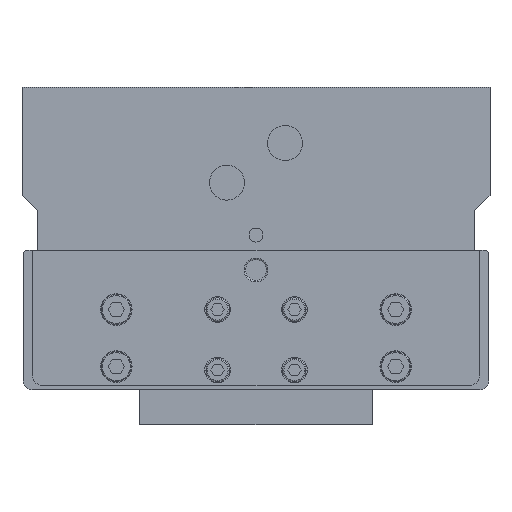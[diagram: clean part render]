
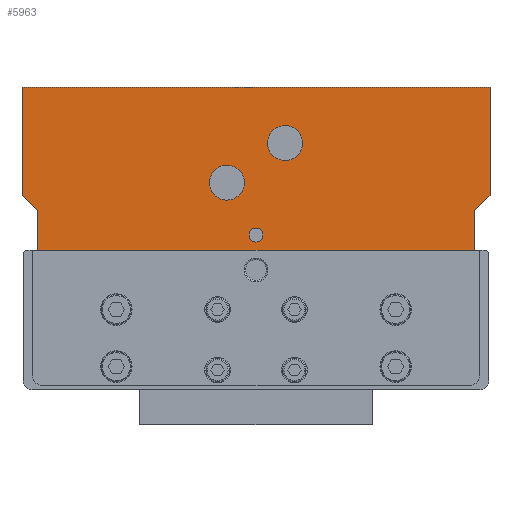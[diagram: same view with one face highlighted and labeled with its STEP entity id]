
A CAD part, left-side view. The second image highlights one B-rep face of the part: STEP entity #5963.
In plain terms, the highlighted planar face has unit normal (-1, 0, 0).
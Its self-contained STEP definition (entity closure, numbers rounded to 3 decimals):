
#1088 = VERTEX_POINT ( 'NONE', #3690 ) ;
#1090 = EDGE_CURVE ( 'NONE', #1088, #1091, #3689, .T. ) ;
#1091 = VERTEX_POINT ( 'NONE', #3684 ) ;
#3684 = CARTESIAN_POINT ( 'NONE',  ( 0., 100.5, 14.5 ) ) ;
#3685 = DIRECTION ( 'NONE',  ( 0., 0., 1. ) ) ;
#3686 = DIRECTION ( 'NONE',  ( -1., 0., 0. ) ) ;
#3687 = CARTESIAN_POINT ( 'NONE',  ( 0., 100.5, 11.5 ) ) ;
#3688 = AXIS2_PLACEMENT_3D ( 'NONE', #3687, #3686, #3685 ) ;
#3689 = CIRCLE ( 'NONE', #3688, 3. ) ;
#3690 = CARTESIAN_POINT ( 'NONE',  ( 0., 100.5, 8.5 ) ) ;
#4846 = CARTESIAN_POINT ( 'NONE',  ( 0., 88., 58.5 ) ) ;
#4847 = DIRECTION ( 'NONE',  ( 0., 0., 1. ) ) ;
#4848 = DIRECTION ( 'NONE',  ( -1., 0., 0. ) ) ;
#4849 = CARTESIAN_POINT ( 'NONE',  ( 0., 88., 51. ) ) ;
#4850 = AXIS2_PLACEMENT_3D ( 'NONE', #4849, #4848, #4847 ) ;
#4851 = CIRCLE ( 'NONE', #4850, 7.5 ) ;
#4852 = CARTESIAN_POINT ( 'NONE',  ( 0., 88., 43.5 ) ) ;
#4871 = CARTESIAN_POINT ( 'NONE',  ( 0., 113., 41.5 ) ) ;
#4872 = DIRECTION ( 'NONE',  ( 0., 0., 1. ) ) ;
#4873 = DIRECTION ( 'NONE',  ( -1., 0., 0. ) ) ;
#4874 = CARTESIAN_POINT ( 'NONE',  ( 0., 113., 34. ) ) ;
#4875 = AXIS2_PLACEMENT_3D ( 'NONE', #4874, #4873, #4872 ) ;
#4876 = CIRCLE ( 'NONE', #4875, 7.5 ) ;
#4877 = CARTESIAN_POINT ( 'NONE',  ( 0., 113., 26.5 ) ) ;
#5044 = VERTEX_POINT ( 'NONE', #4852 ) ;
#5047 = EDGE_CURVE ( 'NONE', #5044, #5048, #4851, .T. ) ;
#5048 = VERTEX_POINT ( 'NONE', #4846 ) ;
#5072 = VERTEX_POINT ( 'NONE', #4877 ) ;
#5074 = EDGE_CURVE ( 'NONE', #5072, #5076, #4876, .T. ) ;
#5076 = VERTEX_POINT ( 'NONE', #4871 ) ;
#5904 = EDGE_CURVE ( 'NONE', #5906, #6049, #6789, .T. ) ;
#5906 = VERTEX_POINT ( 'NONE', #6784 ) ;
#5907 = ORIENTED_EDGE ( 'NONE', *, *, #5908, .F. ) ;
#5908 = EDGE_CURVE ( 'NONE', #5909, #5906, #6779, .T. ) ;
#5909 = VERTEX_POINT ( 'NONE', #6772 ) ;
#5911 = ORIENTED_EDGE ( 'NONE', *, *, #5913, .T. ) ;
#5913 = EDGE_CURVE ( 'NONE', #5909, #5916, #6765, .T. ) ;
#5916 = VERTEX_POINT ( 'NONE', #6758 ) ;
#5918 = ORIENTED_EDGE ( 'NONE', *, *, #5919, .F. ) ;
#5919 = EDGE_CURVE ( 'NONE', #5920, #5916, #6752, .T. ) ;
#5920 = VERTEX_POINT ( 'NONE', #6887 ) ;
#5921 = ORIENTED_EDGE ( 'NONE', *, *, #6022, .F. ) ;
#5923 = ORIENTED_EDGE ( 'NONE', *, *, #1090, .F. ) ;
#5925 = ORIENTED_EDGE ( 'NONE', *, *, #5927, .F. ) ;
#5927 = EDGE_CURVE ( 'NONE', #5076, #5072, #6880, .T. ) ;
#5929 = ORIENTED_EDGE ( 'NONE', *, *, #5074, .F. ) ;
#5933 = EDGE_LOOP ( 'NONE', ( #5934, #5936 ) ) ;
#5934 = ORIENTED_EDGE ( 'NONE', *, *, #5935, .F. ) ;
#5935 = EDGE_CURVE ( 'NONE', #5048, #5044, #6868, .T. ) ;
#5936 = ORIENTED_EDGE ( 'NONE', *, *, #5047, .F. ) ;
#5937 = EDGE_LOOP ( 'NONE', ( #5939, #5947, #6051, #5907, #5911, #5918, #5921, #6026 ) ) ;
#5939 = ORIENTED_EDGE ( 'NONE', *, *, #5941, .F. ) ;
#5941 = EDGE_CURVE ( 'NONE', #5943, #5946, #6858, .T. ) ;
#5943 = VERTEX_POINT ( 'NONE', #6851 ) ;
#5946 = VERTEX_POINT ( 'NONE', #6848 ) ;
#5947 = ORIENTED_EDGE ( 'NONE', *, *, #6047, .F. ) ;
#5963 = ADVANCED_FACE ( 'NONE', ( #6957, #6955, #6954, #6952 ), #6948, .F. ) ;
#5966 = EDGE_LOOP ( 'NONE', ( #5968, #5923 ) ) ;
#5968 = ORIENTED_EDGE ( 'NONE', *, *, #5970, .F. ) ;
#5970 = EDGE_CURVE ( 'NONE', #1091, #1088, #6936, .T. ) ;
#5971 = EDGE_LOOP ( 'NONE', ( #5925, #5929 ) ) ;
#6022 = EDGE_CURVE ( 'NONE', #6024, #5920, #7106, .T. ) ;
#6024 = VERTEX_POINT ( 'NONE', #7099 ) ;
#6026 = ORIENTED_EDGE ( 'NONE', *, *, #6029, .T. ) ;
#6029 = EDGE_CURVE ( 'NONE', #6024, #5946, #7095, .T. ) ;
#6047 = EDGE_CURVE ( 'NONE', #6049, #5943, #7050, .T. ) ;
#6049 = VERTEX_POINT ( 'NONE', #7044 ) ;
#6051 = ORIENTED_EDGE ( 'NONE', *, *, #5904, .F. ) ;
#6747 = DIRECTION ( 'NONE',  ( 0., 0.707, 0.707 ) ) ;
#6748 = VECTOR ( 'NONE', #6747, 1000. ) ;
#6750 = CARTESIAN_POINT ( 'NONE',  ( 0., 201., 28.5 ) ) ;
#6752 = LINE ( 'NONE', #6750, #6748 ) ;
#6758 = CARTESIAN_POINT ( 'NONE',  ( 0., 201., 28.5 ) ) ;
#6760 = DIRECTION ( 'NONE',  ( 0., 0., -1. ) ) ;
#6762 = VECTOR ( 'NONE', #6760, 1000. ) ;
#6763 = CARTESIAN_POINT ( 'NONE',  ( 0., 201., 75. ) ) ;
#6765 = LINE ( 'NONE', #6763, #6762 ) ;
#6772 = CARTESIAN_POINT ( 'NONE',  ( 0., 201., 75. ) ) ;
#6774 = DIRECTION ( 'NONE',  ( 0., -1., 0. ) ) ;
#6776 = VECTOR ( 'NONE', #6774, 1000. ) ;
#6778 = CARTESIAN_POINT ( 'NONE',  ( 0., 0., 75. ) ) ;
#6779 = LINE ( 'NONE', #6778, #6776 ) ;
#6784 = CARTESIAN_POINT ( 'NONE',  ( 0., 0., 75. ) ) ;
#6785 = DIRECTION ( 'NONE',  ( 0., 0., -1. ) ) ;
#6787 = VECTOR ( 'NONE', #6785, 1000. ) ;
#6788 = CARTESIAN_POINT ( 'NONE',  ( 0., 0., 75. ) ) ;
#6789 = LINE ( 'NONE', #6788, #6787 ) ;
#6848 = CARTESIAN_POINT ( 'NONE',  ( 0., 6.5, 0. ) ) ;
#6851 = CARTESIAN_POINT ( 'NONE',  ( 0., 6.5, 22. ) ) ;
#6853 = DIRECTION ( 'NONE',  ( 0., 0., -1. ) ) ;
#6855 = VECTOR ( 'NONE', #6853, 1000. ) ;
#6856 = CARTESIAN_POINT ( 'NONE',  ( 0., 6.5, 0. ) ) ;
#6858 = LINE ( 'NONE', #6856, #6855 ) ;
#6862 = DIRECTION ( 'NONE',  ( 0., 0., 1. ) ) ;
#6863 = DIRECTION ( 'NONE',  ( -1., 0., 0. ) ) ;
#6865 = CARTESIAN_POINT ( 'NONE',  ( 0., 88., 51. ) ) ;
#6866 = AXIS2_PLACEMENT_3D ( 'NONE', #6865, #6863, #6862 ) ;
#6868 = CIRCLE ( 'NONE', #6866, 7.5 ) ;
#6874 = DIRECTION ( 'NONE',  ( 0., 0., 1. ) ) ;
#6875 = DIRECTION ( 'NONE',  ( -1., 0., 0. ) ) ;
#6877 = CARTESIAN_POINT ( 'NONE',  ( 0., 113., 34. ) ) ;
#6879 = AXIS2_PLACEMENT_3D ( 'NONE', #6877, #6875, #6874 ) ;
#6880 = CIRCLE ( 'NONE', #6879, 7.5 ) ;
#6887 = CARTESIAN_POINT ( 'NONE',  ( 0., 194.5, 22. ) ) ;
#6929 = DIRECTION ( 'NONE',  ( 0., 0., 1. ) ) ;
#6931 = DIRECTION ( 'NONE',  ( -1., 0., 0. ) ) ;
#6933 = CARTESIAN_POINT ( 'NONE',  ( 0., 100.5, 11.5 ) ) ;
#6934 = AXIS2_PLACEMENT_3D ( 'NONE', #6933, #6931, #6929 ) ;
#6936 = CIRCLE ( 'NONE', #6934, 3. ) ;
#6942 = DIRECTION ( 'NONE',  ( 0., 0., -1. ) ) ;
#6944 = DIRECTION ( 'NONE',  ( 1., 0., 0. ) ) ;
#6945 = CARTESIAN_POINT ( 'NONE',  ( 0., 0., 75. ) ) ;
#6947 = AXIS2_PLACEMENT_3D ( 'NONE', #6945, #6944, #6942 ) ;
#6948 = PLANE ( 'NONE',  #6947 ) ;
#6952 = FACE_OUTER_BOUND ( 'NONE', #5937, .T. ) ;
#6954 = FACE_BOUND ( 'NONE', #5933, .T. ) ;
#6955 = FACE_BOUND ( 'NONE', #5971, .T. ) ;
#6957 = FACE_BOUND ( 'NONE', #5966, .T. ) ;
#7044 = CARTESIAN_POINT ( 'NONE',  ( 0., 0., 28.5 ) ) ;
#7047 = DIRECTION ( 'NONE',  ( 0., 0.707, -0.707 ) ) ;
#7048 = VECTOR ( 'NONE', #7047, 1000. ) ;
#7049 = CARTESIAN_POINT ( 'NONE',  ( 0., 6.5, 22. ) ) ;
#7050 = LINE ( 'NONE', #7049, #7048 ) ;
#7090 = DIRECTION ( 'NONE',  ( 0., -1., 0. ) ) ;
#7092 = VECTOR ( 'NONE', #7090, 1000. ) ;
#7094 = CARTESIAN_POINT ( 'NONE',  ( 0., 0., 0. ) ) ;
#7095 = LINE ( 'NONE', #7094, #7092 ) ;
#7099 = CARTESIAN_POINT ( 'NONE',  ( 0., 194.5, 0. ) ) ;
#7101 = DIRECTION ( 'NONE',  ( 0., 0., 1. ) ) ;
#7103 = VECTOR ( 'NONE', #7101, 1000. ) ;
#7104 = CARTESIAN_POINT ( 'NONE',  ( 0., 194.5, 22. ) ) ;
#7106 = LINE ( 'NONE', #7104, #7103 ) ;
